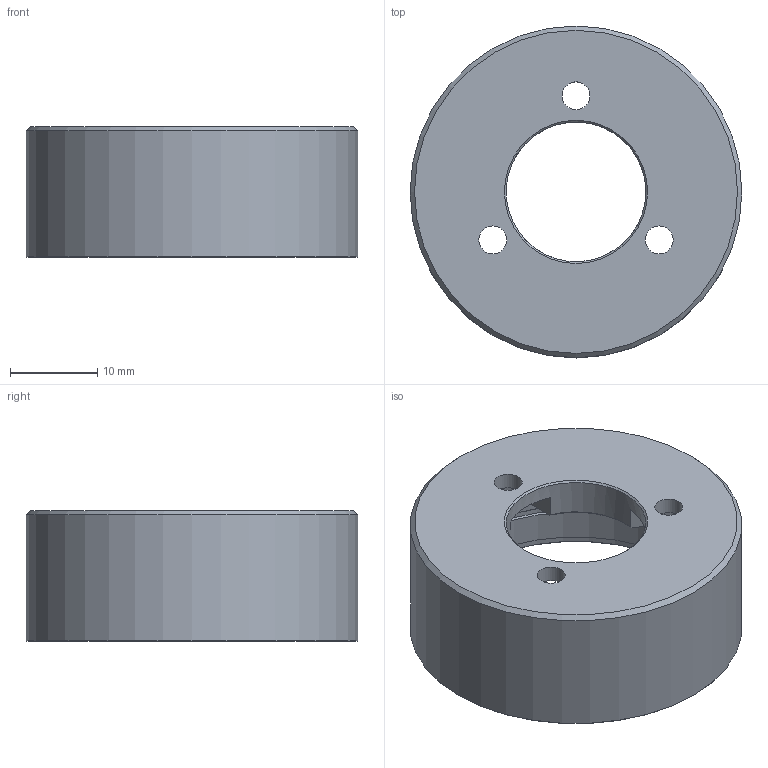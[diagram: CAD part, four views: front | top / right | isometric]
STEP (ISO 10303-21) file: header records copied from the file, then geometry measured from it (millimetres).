
FILE_DESCRIPTION(/* description */ (''),/* implementation_level */ '2;1');
FILE_NAME(/* name */ '38-1_flange_a.stp',/* time_stamp */ '2016-09-15T18:32:10+02:00',/* author */ ('DR. FRITZ FAULHABER GmbH & Co. KG'),/* organization */ ('DR. FRITZ FAULHABER GmbH & Co. KG'),/* preprocessor_version */ 'ST-DEVELOPER v16',/* originating_system */ 'SIEMENS PLM Software NX 10.0',/* authorisation */ '');
FILE_SCHEMA (('AUTOMOTIVE_DESIGN { 1 0 10303 214 3 1 1 1 }'));
Length unit declared in the file: millimetre
Products named in the file (1): huge1AD871C9jgzs
Bounding box: 38 x 38 x 15 mm (x, y, z)
Volume: 6394.9 mm3; surface area: 5251.8 mm2
Topology: 1 solids, 1 shells, 39 faces, 92 edges, 60 vertices
Faces by surface type: plane 16, cylinder 13, cone 10
Full cylindrical faces by diameter (mm): 3.2 x3, 16 x1, 33 x1, 33.5 x1, 34 x1, 34.3 x2, 38 x1
Entity records: 1074 total; most frequent: CARTESIAN_POINT 191, DIRECTION 186, ORIENTED_EDGE 142, AXIS2_PLACEMENT_3D 81, EDGE_CURVE 71, EDGE_LOOP 69, FACE_BOUND 57, VERTEX_POINT 56
